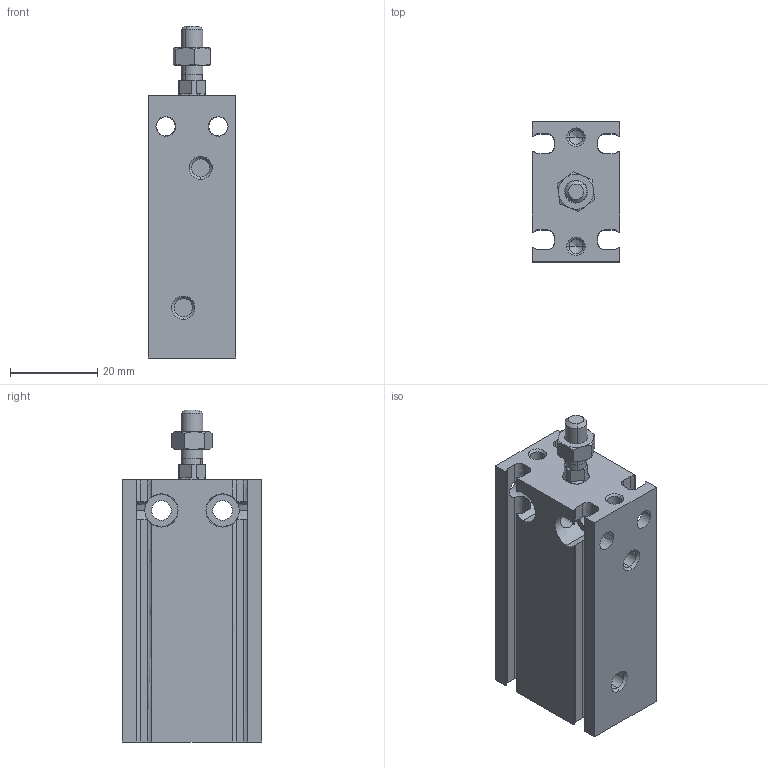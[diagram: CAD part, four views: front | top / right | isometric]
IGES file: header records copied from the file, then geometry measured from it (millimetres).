
Global section: file name: No Iges File Name specified; native system: Autodesk Inventor 2011; preprocessor: AutoDesk Inventor Iges Exporter R2011; author: airolcr1; date: 20110614.145454; units: millimetre
Bounding box: 20 x 32 x 76 mm (x, y, z)
Volume: 31199.7 mm3; surface area: 13084.1 mm2
Topology: 3 solids, 3 shells, 184 faces, 494 edges, 314 vertices
Faces by surface type: bspline 82, plane 54, revolution 28, cone 14, cylinder 6
